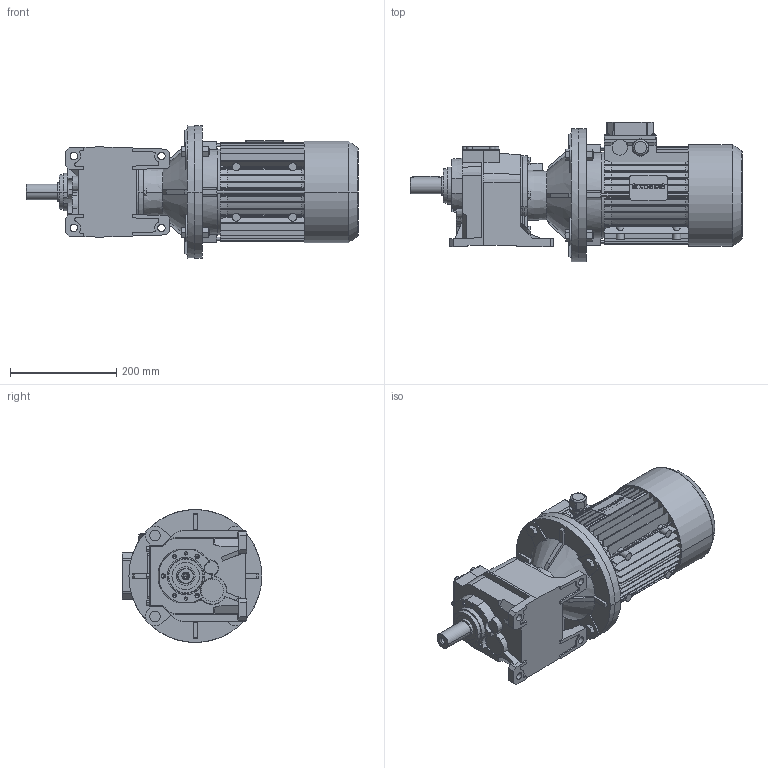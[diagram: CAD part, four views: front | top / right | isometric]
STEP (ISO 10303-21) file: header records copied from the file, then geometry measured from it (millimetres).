
FILE_DESCRIPTION( ( '' ), '1' );
FILE_NAME( '//expscmdclustefs.cadenas.external/client_exchange/iodir/jobs/output/wkb51934882_no0/STEP/H042U5_46100_112_B530x600T1001_2_03.stp', '2012-12-04T09:17:11', ( '' ), ( '' ), ' ', ' ', ' ' );
FILE_SCHEMA( ( 'CONFIG_CONTROL_DESIGN' ) );
Length unit declared in the file: millimetre
Products named in the file (11): 1; 2; 3; 4; 5; 6; 7; 8; 9; 10; 11
Bounding box: 625 x 262.6 x 250 mm (x, y, z)
Volume: 13327559.9 mm3; surface area: 1036563.1 mm2
Topology: 11 solids, 11 shells, 2375 faces, 6468 edges, 4238 vertices
Faces by surface type: plane 1258, cylinder 932, cone 168, torus 11, sphere 6
Entity records: 76567 total; most frequent: CARTESIAN_POINT 14554, DIRECTION 13271, ORIENTED_EDGE 12900, EDGE_CURVE 6450, AXIS2_PLACEMENT_3D 4695, VERTEX_POINT 4238, LINE 3881, VECTOR 3881
